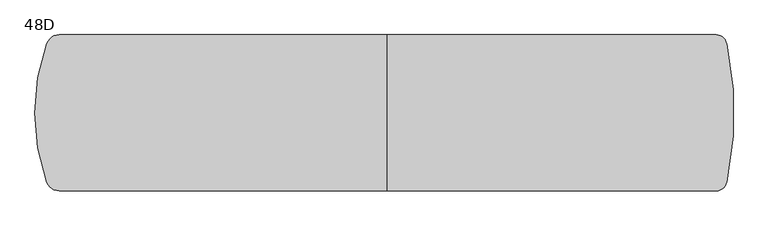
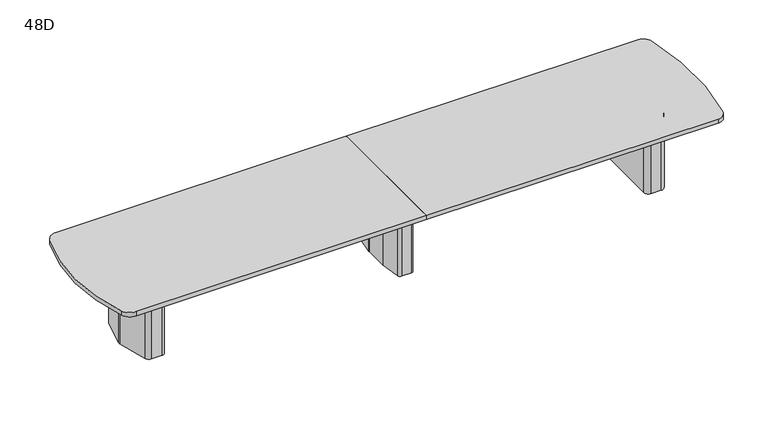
"""IFC4 building model written with IfcOpenShell, lengths in millimetres: furniture geometry, Coalesse_AM_Table_Conference_ETable2_SoftRadiused_18ft_ThreeBase : 48D."""

from ifc_helpers import new_model, si_unit, point, frame, frame_2d, origin, place, context, project, spatial, polyline, circle_curve, trimmed, segment, composite_curve, outline, extrude, source, transform, mapped, element, save
from ifc_brep_helpers import plane_surface, cylinder_surface, revolved_surface, advanced_brep


def furniture_48d_2c258493(model_context):
    return source(origin(), model_context, "Body", "SolidModel", [
        advanced_brep(
        [(35.71875, 206.375, 3.175), (10.31875, 231.775, 3.175), (-10.31875, 231.775, 3.175), (-35.71875, 206.375, 3.175), (-35.71875, -206.375, 3.175), (-10.31875, -231.775, 3.175), (10.31875, -231.775, 3.175), (35.71875, -206.375, 3.175), (-61.11875, 206.375, 0.0), (-10.31875, 257.175, 0.0), (10.31875, 257.175, 0.0), (61.11875, 206.375, 0.0), (61.11875, -206.375, 0.0), (10.31875, -257.175, 0.0), (-10.31875, -257.175, 0.0), (-61.11875, -206.375, 0.0), (-61.11875, -206.375, 3.175), (-61.11875, 206.375, 3.175), (-10.31875, -257.175, 3.175), (10.31875, -257.175, 3.175), (61.11875, -206.375, 3.175), (61.11875, 206.375, 3.175), (10.31875, 257.175, 3.175), (-10.31875, 257.175, 3.175), (-92.6215974, 106.2976848, 698.5), (-92.86875, 102.7629613, 698.5), (-92.86875, -102.7629613, 698.5), (-92.6215974, -106.2976848, 698.5), (-67.7988375, -282.9347235, 698.5), (-42.6459902, -304.8, 698.5), (42.6459902, -304.8, 698.5), (67.7988375, -282.9347235, 698.5), (92.6215974, -106.2976848, 698.5), (92.86875, -102.7629613, 698.5), (92.86875, 102.7629613, 698.5), (92.6215974, 106.2976848, 698.5), (67.7988375, 282.9347235, 698.5), (42.6459902, 304.8, 698.5), (-42.6459902, 304.8, 698.5), (-67.7988375, 282.9347235, 698.5), (10.31875, 231.775, 698.5), (35.71875, 206.375, 698.5), (35.71875, -206.375, 698.5), (10.31875, -231.775, 698.5), (-10.31875, -231.775, 698.5), (-35.71875, -206.375, 698.5), (-35.71875, 206.375, 698.5), (-10.31875, 231.775, 698.5), (-92.6215974, 106.2976848, 3.175), (-67.7988375, 282.9347235, 3.175), (-42.6459902, 304.8, 3.175), (42.6459902, 304.8, 3.175), (67.7988375, 282.9347235, 3.175), (92.6215974, 106.2976848, 3.175), (92.86875, 102.7629613, 3.175), (92.86875, -102.7629613, 3.175), (92.6215974, -106.2976848, 3.175), (67.7988375, -282.9347235, 3.175), (42.6459902, -304.8, 3.175), (-42.6459902, -304.8, 3.175), (-67.7988375, -282.9347235, 3.175), (-92.6215974, -106.2976848, 3.175), (-92.86875, -102.7629613, 3.175), (-92.86875, 102.7629613, 3.175)],
        [
            (0, 1, circle_curve(frame((10.31875, 206.375, 3.175), z_axis=(0.0, 0.0, 1.0), x_axis=(1.0, 0.0, 0.0)), 25.4)),
            (1, 2),
            (2, 3, circle_curve(frame((-10.31875, 206.375, 3.175), z_axis=(0.0, 0.0, 1.0), x_axis=(1.0, 0.0, 0.0)), 25.4)),
            (3, 4),
            (4, 5, circle_curve(frame((-10.31875, -206.375, 3.175), z_axis=(0.0, 0.0, 1.0), x_axis=(1.0, 0.0, 0.0)), 25.4)),
            (5, 6),
            (6, 7, circle_curve(frame((10.31875, -206.375, 3.175), z_axis=(0.0, 0.0, 1.0), x_axis=(1.0, 0.0, 0.0)), 25.4)),
            (7, 0),
            (8, 9, circle_curve(frame((-10.31875, 206.375, 0.0), z_axis=(0.0, 0.0, -1.0), x_axis=(1.0, 0.0, 0.0)), 50.8)),
            (9, 10),
            (10, 11, circle_curve(frame((10.31875, 206.375, 0.0), z_axis=(0.0, 0.0, -1.0), x_axis=(1.0, 0.0, 0.0)), 50.8)),
            (11, 12),
            (12, 13, circle_curve(frame((10.31875, -206.375, 0.0), z_axis=(0.0, 0.0, -1.0), x_axis=(1.0, 0.0, 0.0)), 50.8)),
            (13, 14),
            (14, 15, circle_curve(frame((-10.31875, -206.375, 0.0), z_axis=(0.0, 0.0, -1.0), x_axis=(1.0, 0.0, 0.0)), 50.8)),
            (15, 8),
            (15, 16),
            (16, 17),
            (17, 8),
            (14, 18),
            (18, 16, circle_curve(frame((-10.31875, -206.375, 3.175), z_axis=(0.0, 0.0, -1.0), x_axis=(1.0, 0.0, 0.0)), 50.8)),
            (13, 19),
            (19, 18),
            (12, 20),
            (20, 19, circle_curve(frame((10.31875, -206.375, 3.175), z_axis=(0.0, 0.0, -1.0), x_axis=(1.0, 0.0, 0.0)), 50.8)),
            (11, 21),
            (21, 20),
            (10, 22),
            (22, 21, circle_curve(frame((10.31875, 206.375, 3.175), z_axis=(0.0, 0.0, -1.0), x_axis=(1.0, 0.0, 0.0)), 50.8)),
            (9, 23),
            (23, 22),
            (17, 23, circle_curve(frame((-10.31875, 206.375, 3.175), z_axis=(0.0, 0.0, -1.0), x_axis=(1.0, 0.0, 0.0)), 50.8)),
            (24, 25, circle_curve(frame((-67.46875, 102.7629613, 698.5), z_axis=(0.0, 0.0, 1.0), x_axis=(1.0, 0.0, 0.0)), 25.4)),
            (25, 26),
            (26, 27, circle_curve(frame((-67.46875, -102.7629613, 698.5), z_axis=(0.0, 0.0, 1.0), x_axis=(1.0, 0.0, 0.0)), 25.4)),
            (27, 28),
            (28, 29, circle_curve(frame((-42.6459902, -279.4, 698.5), z_axis=(0.0, 0.0, 1.0), x_axis=(1.0, 0.0, 0.0)), 25.4)),
            (29, 30),
            (30, 31, circle_curve(frame((42.6459902, -279.4, 698.5), z_axis=(0.0, 0.0, 1.0), x_axis=(1.0, 0.0, 0.0)), 25.4)),
            (31, 32),
            (32, 33, circle_curve(frame((67.46875, -102.7629613, 698.5), z_axis=(0.0, 0.0, 1.0), x_axis=(1.0, 0.0, 0.0)), 25.4)),
            (33, 34),
            (34, 35, circle_curve(frame((67.46875, 102.7629613, 698.5), z_axis=(0.0, 0.0, 1.0), x_axis=(1.0, 0.0, 0.0)), 25.4)),
            (35, 36),
            (36, 37, circle_curve(frame((42.6459902, 279.4, 698.5), z_axis=(0.0, 0.0, 1.0), x_axis=(1.0, 0.0, 0.0)), 25.4)),
            (37, 38),
            (38, 39, circle_curve(frame((-42.6459902, 279.4, 698.5), z_axis=(0.0, 0.0, 1.0), x_axis=(1.0, 0.0, 0.0)), 25.4)),
            (39, 24),
            (40, 41, circle_curve(frame((10.31875, 206.375, 698.5), z_axis=(0.0, 0.0, -1.0), x_axis=(1.0, 0.0, 0.0)), 25.4)),
            (41, 42),
            (42, 43, circle_curve(frame((10.31875, -206.375, 698.5), z_axis=(0.0, 0.0, -1.0), x_axis=(1.0, 0.0, 0.0)), 25.4)),
            (43, 44),
            (44, 45, circle_curve(frame((-10.31875, -206.375, 698.5), z_axis=(0.0, 0.0, -1.0), x_axis=(1.0, 0.0, 0.0)), 25.4)),
            (45, 46),
            (46, 47, circle_curve(frame((-10.31875, 206.375, 698.5), z_axis=(0.0, 0.0, -1.0), x_axis=(1.0, 0.0, 0.0)), 25.4)),
            (47, 40),
            (48, 49),
            (49, 50, circle_curve(frame((-42.6459902, 279.4, 3.175), z_axis=(0.0, 0.0, -1.0), x_axis=(1.0, 0.0, 0.0)), 25.4)),
            (50, 51),
            (51, 52, circle_curve(frame((42.6459902, 279.4, 3.175), z_axis=(0.0, 0.0, -1.0), x_axis=(1.0, 0.0, 0.0)), 25.4)),
            (52, 53),
            (53, 54, circle_curve(frame((67.46875, 102.7629613, 3.175), z_axis=(0.0, 0.0, -1.0), x_axis=(1.0, 0.0, 0.0)), 25.4)),
            (54, 55),
            (55, 56, circle_curve(frame((67.46875, -102.7629613, 3.175), z_axis=(0.0, 0.0, -1.0), x_axis=(1.0, 0.0, 0.0)), 25.4)),
            (56, 57),
            (57, 58, circle_curve(frame((42.6459902, -279.4, 3.175), z_axis=(0.0, 0.0, -1.0), x_axis=(1.0, 0.0, 0.0)), 25.4)),
            (58, 59),
            (59, 60, circle_curve(frame((-42.6459902, -279.4, 3.175), z_axis=(0.0, 0.0, -1.0), x_axis=(1.0, 0.0, 0.0)), 25.4)),
            (60, 61),
            (61, 62, circle_curve(frame((-67.46875, -102.7629613, 3.175), z_axis=(0.0, 0.0, -1.0), x_axis=(1.0, 0.0, 0.0)), 25.4)),
            (62, 63),
            (63, 48, circle_curve(frame((-67.46875, 102.7629613, 3.175), z_axis=(0.0, 0.0, -1.0), x_axis=(1.0, 0.0, 0.0)), 25.4)),
            (24, 48),
            (63, 25),
            (62, 26),
            (61, 27),
            (60, 28),
            (59, 29),
            (58, 30),
            (57, 31),
            (56, 32),
            (55, 33),
            (54, 34),
            (53, 35),
            (52, 36),
            (51, 37),
            (50, 38),
            (49, 39),
            (40, 1),
            (0, 41),
            (7, 42),
            (6, 43),
            (5, 44),
            (4, 45),
            (3, 46),
            (2, 47),
        ],
        [
            plane_surface(frame((-61.11875, -206.375, 3.175), z_axis=(0.0, 0.0, 1.0), x_axis=(0.0, -1.0, 0.0))),
            plane_surface(frame((-61.11875, -206.375, 0.0), z_axis=(0.0, 0.0, -1.0), x_axis=(0.0, 1.0, 0.0))),
            plane_surface(frame((-61.11875, 206.375, 3.175), z_axis=(-1.0, 0.0, 0.0), x_axis=(0.0, 0.0, -1.0))),
            cylinder_surface(frame((-10.31875, -206.375, 0.0), z_axis=(0.0, 0.0, 1.0), x_axis=(1.0, 0.0, 0.0)), 50.8),
            plane_surface(frame((-10.31875, -257.175, 3.175), z_axis=(0.0, -1.0, 0.0), x_axis=(0.0, 0.0, -1.0))),
            cylinder_surface(frame((10.31875, -206.375, 0.0), z_axis=(0.0, 0.0, 1.0), x_axis=(1.0, 0.0, 0.0)), 50.8),
            plane_surface(frame((61.11875, -206.375, 3.175), z_axis=(1.0, 0.0, 0.0), x_axis=(0.0, 0.0, -1.0))),
            cylinder_surface(frame((10.31875, 206.375, 0.0), z_axis=(0.0, 0.0, 1.0), x_axis=(1.0, 0.0, 0.0)), 50.8),
            plane_surface(frame((10.31875, 257.175, 3.175), z_axis=(0.0, 1.0, 0.0), x_axis=(0.0, 0.0, -1.0))),
            cylinder_surface(frame((-10.31875, 206.375, 0.0), z_axis=(0.0, 0.0, 1.0), x_axis=(1.0, 0.0, 0.0)), 50.8),
            plane_surface(frame((-42.06875, 102.7629613, 698.5), z_axis=(0.0, 0.0, 1.0), x_axis=(0.0, 1.0, 0.0))),
            plane_surface(frame((-42.06875, 102.7629613, 3.175), z_axis=(0.0, 0.0, -1.0), x_axis=(0.0, -1.0, 0.0))),
            cylinder_surface(frame((-67.46875, 102.7629613, 3.175), z_axis=(0.0, 0.0, 1.0), x_axis=(1.0, 0.0, 0.0)), 25.4),
            plane_surface(frame((-92.86875, 102.7629613, 698.5), z_axis=(-1.0, 0.0, 0.0), x_axis=(0.0, 0.0, -1.0))),
            cylinder_surface(frame((-67.46875, -102.7629613, 3.175), z_axis=(0.0, 0.0, 1.0), x_axis=(1.0, 0.0, 0.0)), 25.4),
            plane_surface(frame((-92.6215974, -106.2976848, 698.5), z_axis=(-0.9902695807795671, -0.13916234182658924, 0.0), x_axis=(0.0, 0.0, -1.0))),
            cylinder_surface(frame((-42.6459902, -279.4, 3.175), z_axis=(0.0, 0.0, 1.0), x_axis=(1.0, 0.0, 0.0)), 25.4),
            plane_surface(frame((-42.6459902, -304.8, 698.5), z_axis=(0.0, -1.0, 0.0), x_axis=(0.0, 0.0, -1.0))),
            cylinder_surface(frame((42.6459902, -279.4, 3.175), z_axis=(0.0, 0.0, 1.0), x_axis=(1.0, 0.0, 0.0)), 25.4),
            plane_surface(frame((67.7988375, -282.9347235, 698.5), z_axis=(0.9902695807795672, -0.13916234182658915, 0.0), x_axis=(0.0, 0.0, -1.0))),
            cylinder_surface(frame((67.46875, -102.7629613, 3.175), z_axis=(0.0, 0.0, 1.0), x_axis=(1.0, 0.0, 0.0)), 25.4),
            plane_surface(frame((92.86875, -102.7629613, 698.5), z_axis=(1.0, 0.0, 0.0), x_axis=(0.0, 0.0, -1.0))),
            cylinder_surface(frame((67.46875, 102.7629613, 3.175), z_axis=(0.0, 0.0, 1.0), x_axis=(1.0, 0.0, 0.0)), 25.4),
            plane_surface(frame((92.6215974, 106.2976848, 698.5), z_axis=(0.9902695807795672, 0.1391623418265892, 0.0), x_axis=(0.0, 0.0, -1.0))),
            cylinder_surface(frame((42.6459902, 279.4, 3.175), z_axis=(0.0, 0.0, 1.0), x_axis=(1.0, 0.0, 0.0)), 25.4),
            plane_surface(frame((42.6459902, 304.8, 698.5), z_axis=(0.0, 1.0, 0.0), x_axis=(0.0, 0.0, -1.0))),
            cylinder_surface(frame((-42.6459902, 279.4, 3.175), z_axis=(0.0, 0.0, 1.0), x_axis=(1.0, 0.0, 0.0)), 25.4),
            plane_surface(frame((-67.7988375, 282.9347235, 698.5), z_axis=(-0.9902695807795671, 0.13916234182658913, 0.0), x_axis=(0.0, 0.0, -1.0))),
            revolved_surface(polyline([(35.71875, 206.375, 3.175), (35.71875, 206.375, 698.5)]), (10.31875, 206.375, 0.0), (0.0, 0.0, -1.0)),
            plane_surface(frame((35.71875, 206.375, 698.5), z_axis=(-1.0, 0.0, 0.0), x_axis=(0.0, 0.0, -1.0))),
            revolved_surface(polyline([(35.71875, -206.375, 3.175), (35.71875, -206.375, 698.5)]), (10.31875, -206.375, 0.0), (0.0, 0.0, -1.0)),
            plane_surface(frame((10.31875, -231.775, 698.5), z_axis=(0.0, 1.0, 0.0), x_axis=(0.0, 0.0, -1.0))),
            revolved_surface(polyline([(15.081249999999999, -206.375, 3.175), (15.081249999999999, -206.375, 698.5)]), (-10.31875, -206.375, 0.0), (0.0, 0.0, -1.0)),
            plane_surface(frame((-35.71875, -206.375, 698.5), z_axis=(1.0, 0.0, 0.0), x_axis=(0.0, 0.0, -1.0))),
            revolved_surface(polyline([(15.081249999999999, 206.375, 3.175), (15.081249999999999, 206.375, 698.5)]), (-10.31875, 206.375, 0.0), (0.0, 0.0, -1.0)),
            plane_surface(frame((-10.31875, 231.775, 698.5), z_axis=(0.0, -1.0, 0.0), x_axis=(0.0, 0.0, -1.0))),
        ],
        [
            (0, [[1, 2, 3, 4, 5, 6, 7, 8]]),
            (1, [[9, 10, 11, 12, 13, 14, 15, 16]]),
            (2, [[-16, 17, 18, 19]]),
            (3, [[-15, 20, 21, -17]]),
            (4, [[-14, 22, 23, -20]]),
            (5, [[-13, 24, 25, -22]]),
            (6, [[-12, 26, 27, -24]]),
            (7, [[-11, 28, 29, -26]]),
            (8, [[-10, 30, 31, -28]]),
            (9, [[-9, -19, 32, -30]]),
            (10, [[33, 34, 35, 36, 37, 38, 39, 40, 41, 42, 43, 44, 45, 46, 47, 48], [49, 50, 51, 52, 53, 54, 55, 56]]),
            (11, [[57, 58, 59, 60, 61, 62, 63, 64, 65, 66, 67, 68, 69, 70, 71, 72], [-18, -21, -23, -25, -27, -29, -31, -32]]),
            (12, [[-33, 73, -72, 74]]),
            (13, [[-34, -74, -71, 75]]),
            (14, [[-35, -75, -70, 76]]),
            (15, [[-36, -76, -69, 77]]),
            (16, [[-37, -77, -68, 78]]),
            (17, [[-38, -78, -67, 79]]),
            (18, [[-39, -79, -66, 80]]),
            (19, [[-40, -80, -65, 81]]),
            (20, [[-41, -81, -64, 82]]),
            (21, [[-42, -82, -63, 83]]),
            (22, [[-43, -83, -62, 84]]),
            (23, [[-44, -84, -61, 85]]),
            (24, [[-45, -85, -60, 86]]),
            (25, [[-46, -86, -59, 87]]),
            (26, [[-47, -87, -58, 88]]),
            (27, [[-48, -88, -57, -73]]),
            (28, [[-49, 89, -1, 90]]),
            (29, [[-50, -90, -8, 91]]),
            (30, [[-51, -91, -7, 92]]),
            (31, [[-52, -92, -6, 93]]),
            (32, [[-53, -93, -5, 94]]),
            (33, [[-54, -94, -4, 95]]),
            (34, [[-55, -95, -3, 96]]),
            (35, [[-56, -96, -2, -89]]),
        ],
    ),
        advanced_brep(
        [(2284.624548, 274.2093613, 698.5), (2244.7579246, 304.8, 698.5), (2155.825, 304.8, 698.5), (2114.55, 263.525, 698.5), (2114.55, -263.525, 698.5), (2155.825, -304.8, 698.5), (2244.7579246, -304.8, 698.5), (2284.624548, -274.2093613, 698.5), (2355.2503901, -10.6333708, 698.5), (2355.2503901, 10.6333708, 698.5), (2152.65, -206.375, 698.5), (2152.65, 206.375, 698.5), (2178.05, 231.775, 698.5), (2237.0608422, 231.775, 698.5), (2261.595338, 212.9490792, 698.5), (2300.2875, 68.54974, 698.5), (2300.2875, -68.54974, 698.5), (2261.595338, -212.9490792, 698.5), (2237.0608422, -231.775, 698.5), (2178.05, -231.775, 698.5), (2284.624548, 274.2093613, 3.175), (2355.2503901, 10.6333708, 3.175), (2355.2503901, -10.6333708, 3.175), (2284.624548, -274.2093613, 3.175), (2244.7579246, -304.8, 3.175), (2155.825, -304.8, 3.175), (2114.55, -263.525, 3.175), (2114.55, 263.525, 3.175), (2155.825, 304.8, 3.175), (2244.7579246, 304.8, 3.175), (2273.8625859, 216.2361187, 3.175), (2237.0608422, 244.475, 3.175), (2178.05, 244.475, 3.175), (2139.95, 206.375, 3.175), (2139.95, -206.375, 3.175), (2178.05, -244.475, 3.175), (2237.0608422, -244.475, 3.175), (2273.8625859, -216.2361187, 3.175), (2312.9875, -70.2217466, 3.175), (2312.9875, 70.2217466, 3.175), (2178.05, -231.775, 3.175), (2152.65, -206.375, 3.175), (2237.0608422, -231.775, 3.175), (2261.595338, -212.9490792, 3.175), (2300.2875, -68.54974, 3.175), (2300.2875, 68.54974, 3.175), (2261.595338, 212.9490792, 3.175), (2237.0608422, 231.775, 3.175), (2178.05, 231.775, 3.175), (2152.65, 206.375, 3.175), (2273.8625859, 216.2361187, 0.0), (2312.9875, 70.2217466, 0.0), (2312.9875, -70.2217466, 0.0), (2273.8625859, -216.2361187, 0.0), (2237.0608422, -244.475, 0.0), (2178.05, -244.475, 0.0), (2139.95, -206.375, 0.0), (2139.95, 206.375, 0.0), (2178.05, 244.475, 0.0), (2237.0608422, 244.475, 0.0)],
        [
            (0, 1, circle_curve(frame((2244.7579246, 263.5270004, 698.5), z_axis=(0.0, 0.0, 1.0), x_axis=(-1.0, 0.0, 0.0)), 41.2729996)),
            (1, 2),
            (2, 3, circle_curve(frame((2155.825, 263.525, 698.5), z_axis=(0.0, 0.0, 1.0), x_axis=(-1.0, 0.0, 0.0)), 41.275)),
            (3, 4),
            (4, 5, circle_curve(frame((2155.825, -263.525, 698.5), z_axis=(0.0, 0.0, 1.0), x_axis=(-1.0, 0.0, 0.0)), 41.275)),
            (5, 6),
            (6, 7, circle_curve(frame((2244.7579246, -263.5270004, 698.5), z_axis=(0.0, 0.0, 1.0), x_axis=(-1.0, 0.0, 0.0)), 41.2729996)),
            (7, 8),
            (8, 9, circle_curve(frame((2315.5665979, 0.0, 698.5), z_axis=(0.0, 0.0, 1.0), x_axis=(-1.0, 0.0, 0.0)), 41.0837187)),
            (9, 0),
            (10, 11),
            (11, 12, circle_curve(frame((2178.05, 206.375, 698.5), z_axis=(0.0, 0.0, -1.0), x_axis=(-1.0, 0.0, 0.0)), 25.4)),
            (12, 13),
            (13, 14, circle_curve(frame((2237.0608422, 206.375, 698.5), z_axis=(0.0, 0.0, -1.0), x_axis=(-1.0, 0.0, 0.0)), 25.4)),
            (14, 15),
            (15, 16),
            (16, 17),
            (17, 18, circle_curve(frame((2237.0608422, -206.375, 698.5), z_axis=(0.0, 0.0, -1.0), x_axis=(-1.0, 0.0, 0.0)), 25.4)),
            (18, 19),
            (19, 10, circle_curve(frame((2178.05, -206.375, 698.5), z_axis=(0.0, 0.0, -1.0), x_axis=(-1.0, 0.0, 0.0)), 25.4)),
            (20, 21),
            (21, 22, circle_curve(frame((2315.5665979, 0.0, 3.175), z_axis=(0.0, 0.0, -1.0), x_axis=(-1.0, 0.0, 0.0)), 41.0837187)),
            (22, 23),
            (23, 24, circle_curve(frame((2244.7579246, -263.5270004, 3.175), z_axis=(0.0, 0.0, -1.0), x_axis=(-1.0, 0.0, 0.0)), 41.2729996)),
            (24, 25),
            (25, 26, circle_curve(frame((2155.825, -263.525, 3.175), z_axis=(0.0, 0.0, -1.0), x_axis=(-1.0, 0.0, 0.0)), 41.275)),
            (26, 27),
            (27, 28, circle_curve(frame((2155.825, 263.525, 3.175), z_axis=(0.0, 0.0, -1.0), x_axis=(-1.0, 0.0, 0.0)), 41.275)),
            (28, 29),
            (29, 20, circle_curve(frame((2244.7579246, 263.5270004, 3.175), z_axis=(0.0, 0.0, -1.0), x_axis=(-1.0, 0.0, 0.0)), 41.2729996)),
            (30, 31, circle_curve(frame((2237.0608422, 206.375, 3.175), z_axis=(0.0, 0.0, 1.0), x_axis=(-1.0, 0.0, 0.0)), 38.1)),
            (31, 32),
            (32, 33, circle_curve(frame((2178.05, 206.375, 3.175), z_axis=(0.0, 0.0, 1.0), x_axis=(-1.0, 0.0, 0.0)), 38.1)),
            (33, 34),
            (34, 35, circle_curve(frame((2178.05, -206.375, 3.175), z_axis=(0.0, 0.0, 1.0), x_axis=(-1.0, 0.0, 0.0)), 38.1)),
            (35, 36),
            (36, 37, circle_curve(frame((2237.0608422, -206.375, 3.175), z_axis=(0.0, 0.0, 1.0), x_axis=(-1.0, 0.0, 0.0)), 38.1)),
            (37, 38),
            (38, 39),
            (39, 30),
            (9, 21),
            (20, 0),
            (8, 22),
            (7, 23),
            (6, 24),
            (5, 25),
            (4, 26),
            (3, 27),
            (2, 28),
            (1, 29),
            (19, 40),
            (40, 41, circle_curve(frame((2178.05, -206.375, 3.175), z_axis=(0.0, 0.0, -1.0), x_axis=(-1.0, 0.0, 0.0)), 25.4)),
            (41, 10),
            (18, 42),
            (42, 40),
            (17, 43),
            (43, 42, circle_curve(frame((2237.0608422, -206.375, 3.175), z_axis=(0.0, 0.0, -1.0), x_axis=(-1.0, 0.0, 0.0)), 25.4)),
            (16, 44),
            (44, 43),
            (15, 45),
            (45, 44),
            (14, 46),
            (46, 45),
            (13, 47),
            (47, 46, circle_curve(frame((2237.0608422, 206.375, 3.175), z_axis=(0.0, 0.0, -1.0), x_axis=(-1.0, 0.0, 0.0)), 25.4)),
            (12, 48),
            (48, 47),
            (11, 49),
            (49, 48, circle_curve(frame((2178.05, 206.375, 3.175), z_axis=(0.0, 0.0, -1.0), x_axis=(-1.0, 0.0, 0.0)), 25.4)),
            (41, 49),
            (50, 51),
            (51, 52),
            (52, 53),
            (53, 54, circle_curve(frame((2237.0608422, -206.375, 0.0), z_axis=(0.0, 0.0, -1.0), x_axis=(-1.0, 0.0, 0.0)), 38.1)),
            (54, 55),
            (55, 56, circle_curve(frame((2178.05, -206.375, 0.0), z_axis=(0.0, 0.0, -1.0), x_axis=(-1.0, 0.0, 0.0)), 38.1)),
            (56, 57),
            (57, 58, circle_curve(frame((2178.05, 206.375, 0.0), z_axis=(0.0, 0.0, -1.0), x_axis=(-1.0, 0.0, 0.0)), 38.1)),
            (58, 59),
            (59, 50, circle_curve(frame((2237.0608422, 206.375, 0.0), z_axis=(0.0, 0.0, -1.0), x_axis=(-1.0, 0.0, 0.0)), 38.1)),
            (50, 30),
            (39, 51),
            (38, 52),
            (37, 53),
            (36, 54),
            (35, 55),
            (34, 56),
            (33, 57),
            (32, 58),
            (31, 59),
        ],
        [
            plane_surface(frame((2355.2374275, 10.6817473, 698.5), z_axis=(0.0, 0.0, 1.0000000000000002), x_axis=(0.25882201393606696, -0.9659250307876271, 0.0))),
            plane_surface(frame((2355.2374275, 10.6817473, 3.175), z_axis=(0.0, 0.0, -1.0000000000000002), x_axis=(-0.25882201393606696, 0.9659250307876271, 0.0))),
            plane_surface(frame((2284.624548, 274.2093613, 698.5), z_axis=(0.9659250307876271, 0.25882201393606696, 0.0), x_axis=(0.0, 0.0, -1.0))),
            cylinder_surface(frame((2315.5665979, 0.0, 3.175), z_axis=(0.0, 0.0, 1.0), x_axis=(-1.0, 0.0, 0.0)), 41.0837187),
            plane_surface(frame((2355.2503901, -10.6333708, 698.5), z_axis=(0.9659250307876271, -0.2588220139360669, 0.0), x_axis=(0.0, 0.0, -1.0))),
            cylinder_surface(frame((2244.7579246, -263.5270004, 3.175), z_axis=(0.0, 0.0, 1.0), x_axis=(-1.0, 0.0, 0.0)), 41.2729996),
            plane_surface(frame((2244.7579246, -304.8, 698.5), z_axis=(0.0, -1.0, 0.0), x_axis=(0.0, 0.0, -1.0))),
            cylinder_surface(frame((2155.825, -263.525, 3.175), z_axis=(0.0, 0.0, 1.0), x_axis=(-1.0, 0.0, 0.0)), 41.275),
            plane_surface(frame((2114.55, -263.525, 698.5), z_axis=(-1.0, 0.0, 0.0), x_axis=(0.0, 0.0, -1.0))),
            cylinder_surface(frame((2155.825, 263.525, 3.175), z_axis=(0.0, 0.0, 1.0), x_axis=(-1.0, 0.0, 0.0)), 41.275),
            plane_surface(frame((2155.825, 304.8, 698.5), z_axis=(0.0, 1.0, 0.0), x_axis=(0.0, 0.0, -1.0))),
            cylinder_surface(frame((2244.7579246, 263.5270004, 3.175), z_axis=(0.0, 0.0, 1.0), x_axis=(-1.0, 0.0, 0.0)), 41.2729996),
            revolved_surface(polyline([(2152.65, -206.375, 3.175), (2152.65, -206.375, 698.5)]), (2178.05, -206.375, 0.0), (0.0, 0.0, -1.0)),
            plane_surface(frame((2178.05, -231.775, 698.5), z_axis=(0.0, 1.0, 0.0), x_axis=(0.0, 0.0, -1.0))),
            revolved_surface(polyline([(2211.6608422, -206.375, 3.175), (2211.6608422, -206.375, 698.5)]), (2237.0608422, -206.375, 0.0), (0.0, 0.0, -1.0)),
            plane_surface(frame((2261.595338, -212.9490792, 698.5), z_axis=(-0.9659250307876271, 0.2588220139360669, 0.0), x_axis=(0.0, 0.0, -1.0))),
            plane_surface(frame((2300.2875, -68.54974, 698.5), z_axis=(-1.0, 0.0, 0.0), x_axis=(0.0, 0.0, -1.0))),
            plane_surface(frame((2300.2875, 68.54974, 698.5), z_axis=(-0.9659250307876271, -0.25882201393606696, 0.0), x_axis=(0.0, 0.0, -1.0))),
            revolved_surface(polyline([(2211.6608422, 206.375, 3.175), (2211.6608422, 206.375, 698.5)]), (2237.0608422, 206.375, 0.0), (0.0, 0.0, -1.0)),
            plane_surface(frame((2237.0608422, 231.775, 698.5), z_axis=(0.0, -1.0, 0.0), x_axis=(0.0, 0.0, -1.0))),
            revolved_surface(polyline([(2152.65, 206.375, 3.175), (2152.65, 206.375, 698.5)]), (2178.05, 206.375, 0.0), (0.0, 0.0, -1.0)),
            plane_surface(frame((2152.65, 206.375, 698.5), z_axis=(1.0, 0.0, 0.0), x_axis=(0.0, 0.0, -1.0))),
            plane_surface(frame((2312.5547479, 71.8367796, 3.175), z_axis=(0.0, 0.0, 1.0), x_axis=(0.25882201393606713, -0.965925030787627, 0.0))),
            plane_surface(frame((2312.5547479, 71.8367796, 0.0), z_axis=(0.0, 0.0, -1.0), x_axis=(-0.25882201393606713, 0.965925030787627, 0.0))),
            plane_surface(frame((2273.8625859, 216.2361187, 3.175), z_axis=(0.965925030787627, 0.25882201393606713, 0.0), x_axis=(0.0, 0.0, -1.0))),
            plane_surface(frame((2312.9875, 70.2217466, 3.175), z_axis=(1.0, 0.0, 0.0), x_axis=(0.0, 0.0, -1.0))),
            plane_surface(frame((2312.9875, -70.2217466, 3.175), z_axis=(0.9659250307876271, -0.2588220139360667, 0.0), x_axis=(0.0, 0.0, -1.0))),
            cylinder_surface(frame((2237.0608422, -206.375, 0.0), z_axis=(0.0, 0.0, 1.0), x_axis=(-1.0, 0.0, 0.0)), 38.1),
            plane_surface(frame((2237.0608422, -244.475, 3.175), z_axis=(0.0, -1.0, 0.0), x_axis=(0.0, 0.0, -1.0))),
            cylinder_surface(frame((2178.05, -206.375, 0.0), z_axis=(0.0, 0.0, 1.0), x_axis=(-1.0, 0.0, 0.0)), 38.1),
            plane_surface(frame((2139.95, -206.375, 3.175), z_axis=(-1.0, 0.0, 0.0), x_axis=(0.0, 0.0, -1.0))),
            cylinder_surface(frame((2178.05, 206.375, 0.0), z_axis=(0.0, 0.0, 1.0), x_axis=(-1.0, 0.0, 0.0)), 38.1),
            plane_surface(frame((2178.05, 244.475, 3.175), z_axis=(0.0, 1.0, 0.0), x_axis=(0.0, 0.0, -1.0))),
            cylinder_surface(frame((2237.0608422, 206.375, 0.0), z_axis=(0.0, 0.0, 1.0), x_axis=(-1.0, 0.0, 0.0)), 38.1),
        ],
        [
            (0, [[1, 2, 3, 4, 5, 6, 7, 8, 9, 10], [11, 12, 13, 14, 15, 16, 17, 18, 19, 20]]),
            (1, [[21, 22, 23, 24, 25, 26, 27, 28, 29, 30], [31, 32, 33, 34, 35, 36, 37, 38, 39, 40]]),
            (2, [[41, -21, 42, -10]]),
            (3, [[43, -22, -41, -9]]),
            (4, [[44, -23, -43, -8]]),
            (5, [[45, -24, -44, -7]]),
            (6, [[46, -25, -45, -6]]),
            (7, [[47, -26, -46, -5]]),
            (8, [[48, -27, -47, -4]]),
            (9, [[49, -28, -48, -3]]),
            (10, [[50, -29, -49, -2]]),
            (11, [[-42, -30, -50, -1]]),
            (12, [[51, 52, 53, -20]]),
            (13, [[54, 55, -51, -19]]),
            (14, [[56, 57, -54, -18]]),
            (15, [[58, 59, -56, -17]]),
            (16, [[60, 61, -58, -16]]),
            (17, [[62, 63, -60, -15]]),
            (18, [[64, 65, -62, -14]]),
            (19, [[66, 67, -64, -13]]),
            (20, [[68, 69, -66, -12]]),
            (21, [[-53, 70, -68, -11]]),
            (22, [[-55, -57, -59, -61, -63, -65, -67, -69, -70, -52]]),
            (23, [[71, 72, 73, 74, 75, 76, 77, 78, 79, 80]]),
            (24, [[81, -40, 82, -71]]),
            (25, [[-82, -39, 83, -72]]),
            (26, [[-83, -38, 84, -73]]),
            (27, [[-84, -37, 85, -74]]),
            (28, [[-85, -36, 86, -75]]),
            (29, [[-86, -35, 87, -76]]),
            (30, [[-87, -34, 88, -77]]),
            (31, [[-88, -33, 89, -78]]),
            (32, [[-89, -32, 90, -79]]),
            (33, [[-90, -31, -81, -80]]),
        ],
    ),
        advanced_brep(
        [(-2284.624548, 274.2093613, 698.5), (-2355.2503901, 10.6333708, 698.5), (-2355.2503901, -10.6333708, 698.5), (-2284.624548, -274.2093613, 698.5), (-2244.7579246, -304.8, 698.5), (-2155.825, -304.8, 698.5), (-2114.55, -263.525, 698.5), (-2114.55, 263.525, 698.5), (-2155.825, 304.8, 698.5), (-2244.7579246, 304.8, 698.5), (-2152.65, -206.375, 698.5), (-2178.05, -231.775, 698.5), (-2237.0608422, -231.775, 698.5), (-2261.595338, -212.9490792, 698.5), (-2300.2875, -68.54974, 698.5), (-2300.2875, 68.54974, 698.5), (-2261.595338, 212.9490792, 698.5), (-2237.0608422, 231.775, 698.5), (-2178.05, 231.775, 698.5), (-2152.65, 206.375, 698.5), (-2284.624548, 274.2093613, 3.175), (-2244.7579246, 304.8, 3.175), (-2155.825, 304.8, 3.175), (-2114.55, 263.525, 3.175), (-2114.55, -263.525, 3.175), (-2155.825, -304.8, 3.175), (-2244.7579246, -304.8, 3.175), (-2284.624548, -274.2093613, 3.175), (-2355.2503901, -10.6333708, 3.175), (-2355.2503901, 10.6333708, 3.175), (-2273.8625859, 216.2361187, 3.175), (-2312.9875, 70.2217466, 3.175), (-2312.9875, -70.2217466, 3.175), (-2273.8625859, -216.2361187, 3.175), (-2237.0608422, -244.475, 3.175), (-2178.05, -244.475, 3.175), (-2139.95, -206.375, 3.175), (-2139.95, 206.375, 3.175), (-2178.05, 244.475, 3.175), (-2237.0608422, 244.475, 3.175), (-2152.65, -206.375, 3.175), (-2178.05, -231.775, 3.175), (-2237.0608422, -231.775, 3.175), (-2261.595338, -212.9490792, 3.175), (-2300.2875, -68.54974, 3.175), (-2300.2875, 68.54974, 3.175), (-2261.595338, 212.9490792, 3.175), (-2237.0608422, 231.775, 3.175), (-2178.05, 231.775, 3.175), (-2152.65, 206.375, 3.175), (-2273.8625859, 216.2361187, 0.0), (-2237.0608422, 244.475, 0.0), (-2178.05, 244.475, 0.0), (-2139.95, 206.375, 0.0), (-2139.95, -206.375, 0.0), (-2178.05, -244.475, 0.0), (-2237.0608422, -244.475, 0.0), (-2273.8625859, -216.2361187, 0.0), (-2312.9875, -70.2217466, 0.0), (-2312.9875, 70.2217466, 0.0)],
        [
            (0, 1),
            (1, 2, circle_curve(frame((-2315.5665979, 0.0, 698.5), z_axis=(0.0, 0.0, 1.0), x_axis=(1.0, 0.0, 0.0)), 41.0837187)),
            (2, 3),
            (3, 4, circle_curve(frame((-2244.7579246, -263.5270004, 698.5), z_axis=(0.0, 0.0, 1.0), x_axis=(1.0, 0.0, 0.0)), 41.2729996)),
            (4, 5),
            (5, 6, circle_curve(frame((-2155.825, -263.525, 698.5), z_axis=(0.0, 0.0, 1.0), x_axis=(1.0, 0.0, 0.0)), 41.275)),
            (6, 7),
            (7, 8, circle_curve(frame((-2155.825, 263.525, 698.5), z_axis=(0.0, 0.0, 1.0), x_axis=(1.0, 0.0, 0.0)), 41.275)),
            (8, 9),
            (9, 0, circle_curve(frame((-2244.7579246, 263.5270004, 698.5), z_axis=(0.0, 0.0, 1.0), x_axis=(1.0, 0.0, 0.0)), 41.2729996)),
            (10, 11, circle_curve(frame((-2178.05, -206.375, 698.5), z_axis=(0.0, 0.0, -1.0), x_axis=(1.0, 0.0, 0.0)), 25.4)),
            (11, 12),
            (12, 13, circle_curve(frame((-2237.0608422, -206.375, 698.5), z_axis=(0.0, 0.0, -1.0), x_axis=(1.0, 0.0, 0.0)), 25.4)),
            (13, 14),
            (14, 15),
            (15, 16),
            (16, 17, circle_curve(frame((-2237.0608422, 206.375, 698.5), z_axis=(0.0, 0.0, -1.0), x_axis=(1.0, 0.0, 0.0)), 25.4)),
            (17, 18),
            (18, 19, circle_curve(frame((-2178.05, 206.375, 698.5), z_axis=(0.0, 0.0, -1.0), x_axis=(1.0, 0.0, 0.0)), 25.4)),
            (19, 10),
            (20, 21, circle_curve(frame((-2244.7579246, 263.5270004, 3.175), z_axis=(0.0, 0.0, -1.0), x_axis=(1.0, 0.0, 0.0)), 41.2729996)),
            (21, 22),
            (22, 23, circle_curve(frame((-2155.825, 263.525, 3.175), z_axis=(0.0, 0.0, -1.0), x_axis=(1.0, 0.0, 0.0)), 41.275)),
            (23, 24),
            (24, 25, circle_curve(frame((-2155.825, -263.525, 3.175), z_axis=(0.0, 0.0, -1.0), x_axis=(1.0, 0.0, 0.0)), 41.275)),
            (25, 26),
            (26, 27, circle_curve(frame((-2244.7579246, -263.5270004, 3.175), z_axis=(0.0, 0.0, -1.0), x_axis=(1.0, 0.0, 0.0)), 41.2729996)),
            (27, 28),
            (28, 29, circle_curve(frame((-2315.5665979, 0.0, 3.175), z_axis=(0.0, 0.0, -1.0), x_axis=(1.0, 0.0, 0.0)), 41.0837187)),
            (29, 20),
            (30, 31),
            (31, 32),
            (32, 33),
            (33, 34, circle_curve(frame((-2237.0608422, -206.375, 3.175), z_axis=(0.0, 0.0, 1.0), x_axis=(1.0, 0.0, 0.0)), 38.1)),
            (34, 35),
            (35, 36, circle_curve(frame((-2178.05, -206.375, 3.175), z_axis=(0.0, 0.0, 1.0), x_axis=(1.0, 0.0, 0.0)), 38.1)),
            (36, 37),
            (37, 38, circle_curve(frame((-2178.05, 206.375, 3.175), z_axis=(0.0, 0.0, 1.0), x_axis=(1.0, 0.0, 0.0)), 38.1)),
            (38, 39),
            (39, 30, circle_curve(frame((-2237.0608422, 206.375, 3.175), z_axis=(0.0, 0.0, 1.0), x_axis=(1.0, 0.0, 0.0)), 38.1)),
            (0, 20),
            (29, 1),
            (28, 2),
            (27, 3),
            (26, 4),
            (25, 5),
            (24, 6),
            (23, 7),
            (22, 8),
            (21, 9),
            (10, 40),
            (40, 41, circle_curve(frame((-2178.05, -206.375, 3.175), z_axis=(0.0, 0.0, -1.0), x_axis=(1.0, 0.0, 0.0)), 25.4)),
            (41, 11),
            (41, 42),
            (42, 12),
            (42, 43, circle_curve(frame((-2237.0608422, -206.375, 3.175), z_axis=(0.0, 0.0, -1.0), x_axis=(1.0, 0.0, 0.0)), 25.4)),
            (43, 13),
            (43, 44),
            (44, 14),
            (44, 45),
            (45, 15),
            (45, 46),
            (46, 16),
            (46, 47, circle_curve(frame((-2237.0608422, 206.375, 3.175), z_axis=(0.0, 0.0, -1.0), x_axis=(1.0, 0.0, 0.0)), 25.4)),
            (47, 17),
            (47, 48),
            (48, 18),
            (48, 49, circle_curve(frame((-2178.05, 206.375, 3.175), z_axis=(0.0, 0.0, -1.0), x_axis=(1.0, 0.0, 0.0)), 25.4)),
            (49, 19),
            (49, 40),
            (50, 51, circle_curve(frame((-2237.0608422, 206.375, 0.0), z_axis=(0.0, 0.0, -1.0), x_axis=(1.0, 0.0, 0.0)), 38.1)),
            (51, 52),
            (52, 53, circle_curve(frame((-2178.05, 206.375, 0.0), z_axis=(0.0, 0.0, -1.0), x_axis=(1.0, 0.0, 0.0)), 38.1)),
            (53, 54),
            (54, 55, circle_curve(frame((-2178.05, -206.375, 0.0), z_axis=(0.0, 0.0, -1.0), x_axis=(1.0, 0.0, 0.0)), 38.1)),
            (55, 56),
            (56, 57, circle_curve(frame((-2237.0608422, -206.375, 0.0), z_axis=(0.0, 0.0, -1.0), x_axis=(1.0, 0.0, 0.0)), 38.1)),
            (57, 58),
            (58, 59),
            (59, 50),
            (59, 31),
            (30, 50),
            (58, 32),
            (57, 33),
            (56, 34),
            (55, 35),
            (54, 36),
            (53, 37),
            (52, 38),
            (51, 39),
        ],
        [
            plane_surface(frame((-2355.2374275, 10.6817473, 698.5), z_axis=(0.0, 0.0, 1.0000000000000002), x_axis=(-0.25882201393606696, -0.9659250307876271, 0.0))),
            plane_surface(frame((-2355.2374275, 10.6817473, 3.175), z_axis=(0.0, 0.0, -1.0000000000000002), x_axis=(0.25882201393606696, 0.9659250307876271, 0.0))),
            plane_surface(frame((-2284.624548, 274.2093613, 698.5), z_axis=(-0.9659250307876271, 0.25882201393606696, 0.0), x_axis=(0.0, 0.0, -1.0))),
            cylinder_surface(frame((-2315.5665979, 0.0, 3.175), z_axis=(0.0, 0.0, 1.0), x_axis=(1.0, 0.0, 0.0)), 41.0837187),
            plane_surface(frame((-2355.2503901, -10.6333708, 698.5), z_axis=(-0.9659250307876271, -0.2588220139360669, 0.0), x_axis=(0.0, 0.0, -1.0))),
            cylinder_surface(frame((-2244.7579246, -263.5270004, 3.175), z_axis=(0.0, 0.0, 1.0), x_axis=(1.0, 0.0, 0.0)), 41.2729996),
            plane_surface(frame((-2244.7579246, -304.8, 698.5), z_axis=(0.0, -1.0, 0.0), x_axis=(0.0, 0.0, -1.0))),
            cylinder_surface(frame((-2155.825, -263.525, 3.175), z_axis=(0.0, 0.0, 1.0), x_axis=(1.0, 0.0, 0.0)), 41.275),
            plane_surface(frame((-2114.55, -263.525, 698.5), z_axis=(1.0, 0.0, 0.0), x_axis=(0.0, 0.0, -1.0))),
            cylinder_surface(frame((-2155.825, 263.525, 3.175), z_axis=(0.0, 0.0, 1.0), x_axis=(1.0, 0.0, 0.0)), 41.275),
            plane_surface(frame((-2155.825, 304.8, 698.5), z_axis=(0.0, 1.0, 0.0), x_axis=(0.0, 0.0, -1.0))),
            cylinder_surface(frame((-2244.7579246, 263.5270004, 3.175), z_axis=(0.0, 0.0, 1.0), x_axis=(1.0, 0.0, 0.0)), 41.2729996),
            revolved_surface(polyline([(-2152.65, -206.375, 3.175), (-2152.65, -206.375, 698.5)]), (-2178.05, -206.375, 0.0), (0.0, 0.0, -1.0)),
            plane_surface(frame((-2178.05, -231.775, 698.5), z_axis=(0.0, 1.0, 0.0), x_axis=(0.0, 0.0, -1.0))),
            revolved_surface(polyline([(-2211.6608422, -206.375, 3.175), (-2211.6608422, -206.375, 698.5)]), (-2237.0608422, -206.375, 0.0), (0.0, 0.0, -1.0)),
            plane_surface(frame((-2261.595338, -212.9490792, 698.5), z_axis=(0.9659250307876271, 0.2588220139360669, 0.0), x_axis=(0.0, 0.0, -1.0))),
            plane_surface(frame((-2300.2875, -68.54974, 698.5), z_axis=(1.0, 0.0, 0.0), x_axis=(0.0, 0.0, -1.0))),
            plane_surface(frame((-2300.2875, 68.54974, 698.5), z_axis=(0.9659250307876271, -0.25882201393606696, 0.0), x_axis=(0.0, 0.0, -1.0))),
            revolved_surface(polyline([(-2211.6608422, 206.375, 3.175), (-2211.6608422, 206.375, 698.5)]), (-2237.0608422, 206.375, 0.0), (0.0, 0.0, -1.0)),
            plane_surface(frame((-2237.0608422, 231.775, 698.5), z_axis=(0.0, -1.0, 0.0), x_axis=(0.0, 0.0, -1.0))),
            revolved_surface(polyline([(-2152.65, 206.375, 3.175), (-2152.65, 206.375, 698.5)]), (-2178.05, 206.375, 0.0), (0.0, 0.0, -1.0)),
            plane_surface(frame((-2152.65, 206.375, 698.5), z_axis=(-1.0, 0.0, 0.0), x_axis=(0.0, 0.0, -1.0))),
            plane_surface(frame((-2312.5547479, 71.8367796, 3.175), z_axis=(0.0, 0.0, 1.0), x_axis=(-0.25882201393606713, -0.965925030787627, 0.0))),
            plane_surface(frame((-2312.5547479, 71.8367796, 0.0), z_axis=(0.0, 0.0, -1.0), x_axis=(0.25882201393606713, 0.965925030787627, 0.0))),
            plane_surface(frame((-2273.8625859, 216.2361187, 3.175), z_axis=(-0.965925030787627, 0.25882201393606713, 0.0), x_axis=(0.0, 0.0, -1.0))),
            plane_surface(frame((-2312.9875, 70.2217466, 3.175), z_axis=(-1.0, 0.0, 0.0), x_axis=(0.0, 0.0, -1.0))),
            plane_surface(frame((-2312.9875, -70.2217466, 3.175), z_axis=(-0.9659250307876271, -0.2588220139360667, 0.0), x_axis=(0.0, 0.0, -1.0))),
            cylinder_surface(frame((-2237.0608422, -206.375, 0.0), z_axis=(0.0, 0.0, 1.0), x_axis=(1.0, 0.0, 0.0)), 38.1),
            plane_surface(frame((-2237.0608422, -244.475, 3.175), z_axis=(0.0, -1.0, 0.0), x_axis=(0.0, 0.0, -1.0))),
            cylinder_surface(frame((-2178.05, -206.375, 0.0), z_axis=(0.0, 0.0, 1.0), x_axis=(1.0, 0.0, 0.0)), 38.1),
            plane_surface(frame((-2139.95, -206.375, 3.175), z_axis=(1.0, 0.0, 0.0), x_axis=(0.0, 0.0, -1.0))),
            cylinder_surface(frame((-2178.05, 206.375, 0.0), z_axis=(0.0, 0.0, 1.0), x_axis=(1.0, 0.0, 0.0)), 38.1),
            plane_surface(frame((-2178.05, 244.475, 3.175), z_axis=(0.0, 1.0, 0.0), x_axis=(0.0, 0.0, -1.0))),
            cylinder_surface(frame((-2237.0608422, 206.375, 0.0), z_axis=(0.0, 0.0, 1.0), x_axis=(1.0, 0.0, 0.0)), 38.1),
        ],
        [
            (0, [[1, 2, 3, 4, 5, 6, 7, 8, 9, 10], [11, 12, 13, 14, 15, 16, 17, 18, 19, 20]]),
            (1, [[21, 22, 23, 24, 25, 26, 27, 28, 29, 30], [31, 32, 33, 34, 35, 36, 37, 38, 39, 40]]),
            (2, [[-1, 41, -30, 42]]),
            (3, [[-2, -42, -29, 43]]),
            (4, [[-3, -43, -28, 44]]),
            (5, [[-4, -44, -27, 45]]),
            (6, [[-5, -45, -26, 46]]),
            (7, [[-6, -46, -25, 47]]),
            (8, [[-7, -47, -24, 48]]),
            (9, [[-8, -48, -23, 49]]),
            (10, [[-9, -49, -22, 50]]),
            (11, [[-10, -50, -21, -41]]),
            (12, [[-11, 51, 52, 53]]),
            (13, [[-12, -53, 54, 55]]),
            (14, [[-13, -55, 56, 57]]),
            (15, [[-14, -57, 58, 59]]),
            (16, [[-15, -59, 60, 61]]),
            (17, [[-16, -61, 62, 63]]),
            (18, [[-17, -63, 64, 65]]),
            (19, [[-18, -65, 66, 67]]),
            (20, [[-19, -67, 68, 69]]),
            (21, [[-20, -69, 70, -51]]),
            (22, [[-52, -70, -68, -66, -64, -62, -60, -58, -56, -54]]),
            (23, [[71, 72, 73, 74, 75, 76, 77, 78, 79, 80]]),
            (24, [[-80, 81, -31, 82]]),
            (25, [[-79, 83, -32, -81]]),
            (26, [[-78, 84, -33, -83]]),
            (27, [[-77, 85, -34, -84]]),
            (28, [[-76, 86, -35, -85]]),
            (29, [[-75, 87, -36, -86]]),
            (30, [[-74, 88, -37, -87]]),
            (31, [[-73, 89, -38, -88]]),
            (32, [[-72, 90, -39, -89]]),
            (33, [[-71, -82, -40, -90]]),
        ],
    ),
        extrude(outline(composite_curve([segment(polyline([(0.0, 609.6), (0.0, -609.6), (-2554.0540251, -609.6)]), True, "CONTINUOUS"), segment(trimmed(circle_curve(frame_2d((-2554.0540251, -508.0)), 101.6), [point((-2554.0540251, -609.6))], [point((-2649.7932067, -542.0083682))], False, "CARTESIAN"), True, "CONTINUOUS"), segment(trimmed(circle_curve(frame_2d((-1123.95, 0.0)), 1619.25), [point((-2649.7932067, -542.0083682))], [point((-2649.7932067, 542.0083682))], False, "CARTESIAN"), True, "CONTINUOUS"), segment(trimmed(circle_curve(frame_2d((-2554.0540251, 508.0)), 101.6), [point((-2649.7932067, 542.0083682))], [point((-2554.0540251, 609.6))], False, "CARTESIAN"), True, "CONTINUOUS"), segment(polyline([(-2554.0540251, 609.6), (0.0, 609.6)]), True, "CONTINUOUS")], self_intersect=False)), frame((0.0, 0.0, 698.5), z_axis=(0.0, 0.0, 1.0), x_axis=(1.0, 0.0, 0.0)), (0.0, 0.0, 1.0), 38.1),
        extrude(outline(composite_curve([segment(trimmed(circle_curve(frame_2d((115.2979315, 0.0)), 2591.8023402), [point((2649.7932067, 542.0083682))], [point((2649.7932067, -542.0083682))], False, "CARTESIAN"), True, "CONTINUOUS"), segment(trimmed(circle_curve(frame_2d((2568.9605731, -527.4704298)), 82.1295702), [point((2649.7932067, -542.0083682))], [point((2568.9605731, -609.6))], False, "CARTESIAN"), True, "CONTINUOUS"), segment(polyline([(2568.9605731, -609.6), (0.0, -609.6), (0.0, 609.6), (2568.9605731, 609.6)]), True, "CONTINUOUS"), segment(trimmed(circle_curve(frame_2d((2568.9605731, 527.4704298)), 82.1295702), [point((2568.9605731, 609.6))], [point((2649.7932067, 542.0083682))], False, "CARTESIAN"), True, "CONTINUOUS")], self_intersect=False)), frame((0.0, 0.0, 698.5), z_axis=(0.0, 0.0, 1.0), x_axis=(1.0, 0.0, 0.0)), (0.0, 0.0, 1.0), 38.1),
        extrude(outline(polyline([(96.8375, 698.5), (103.1875, 698.5), (103.1875, 476.25), (-103.1875, 476.25), (-103.1875, 698.5), (-96.8375, 698.5), (-96.8375, 482.6), (96.8375, 482.6), (96.8375, 698.5)])), frame((-2114.55, 0.0, 0.0), z_axis=(1.0, 0.0, 0.0), x_axis=(0.0, 1.0, 0.0)), (0.0, 0.0, 1.0), 4229.1),
    ])


if __name__ == "__main__":
    model = new_model("IFC4")
    model_context = context("Model", 3, world=origin())
    ifc_project = project(units=[si_unit("LENGTHUNIT", "METRE", prefix="MILLI")], contexts=[model_context])
    site = spatial("IfcSite", under=ifc_project)
    building = spatial("IfcBuilding", under=site)
    placement = place(None, origin())
    furniture_48d_shape = furniture_48d_2c258493(model_context)
    element("IfcFurniture", 1, ObjectType="Coalesse_AM_Table_Conference_ETable2_SoftRadiused_18ft_ThreeBase : 48D", at=placement, inside=building, context=model_context, shape_type="MappedRepresentation", body=[
        mapped(furniture_48d_shape, transform((0.0, 0.0, 0.0), x_axis=(1.0, 0.0, 0.0), y_axis=(0.0, 1.0, 0.0), z_axis=(0.0, 0.0, 1.0))),
    ])
    save(model, "model.ifc")
